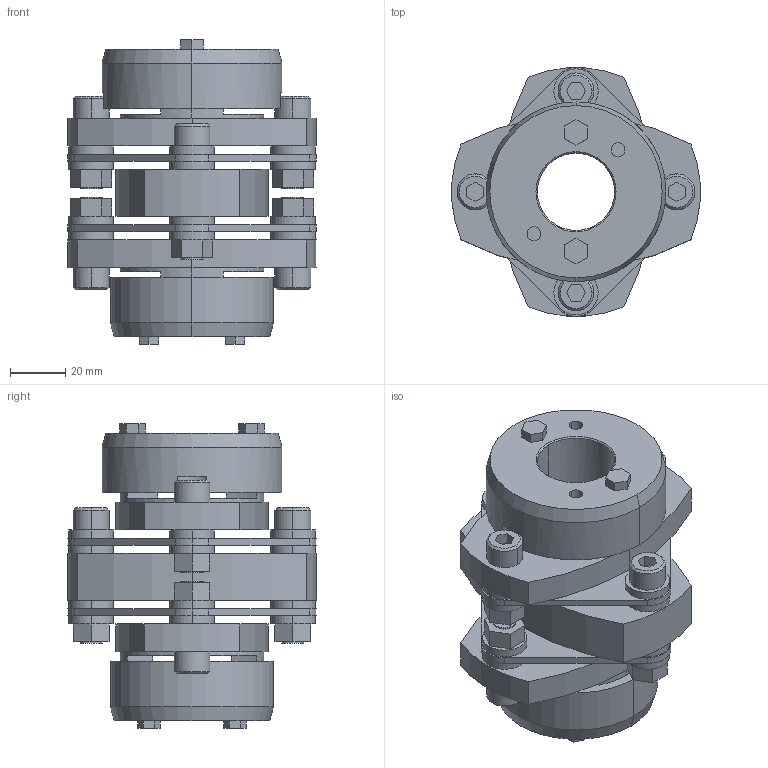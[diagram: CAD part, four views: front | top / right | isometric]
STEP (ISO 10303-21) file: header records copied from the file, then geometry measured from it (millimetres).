
FILE_DESCRIPTION((''),'2;1');
FILE_NAME('LCD-90T7-28×32.stp','2015-11-01T19:33:34',(''),(''),'AutoCAD STEP 2000i','AutoCAD 2000i',', , ');
FILE_SCHEMA(('CONFIG_CONTROL_DESIGN'));
Length unit declared in the file: millimetre
Products named in the file (11): LCD-90T7-30×32; 忣兜1; LC90T7-T032; LC90T7-T035; LC90T7-T030-1; LC90T7-T030; LC90T7-T025-1; LC90T7-T025; LC90T7-T019-1; LC90T7-T019; LCD90-ITA
Assembly tree (10 placements, depth 2):
  LCD-90T7-30×32
    忣兜1
    LC90T7-T032
    LC90T7-T035
    LC90T7-T030-1
    LC90T7-T030
    LC90T7-T025-1
    LC90T7-T025
    LC90T7-T019-1
    LC90T7-T019
    LCD90-ITA
Bounding box: 90 x 89.94 x 110.3 mm (x, y, z)
Volume: 265562.2 mm3; surface area: 73972.8 mm2
Topology: 1 solids, 1 shells, 324 faces, 792 edges, 520 vertices
Faces by surface type: plane 178, cylinder 122, cone 24
Entity records: 9859 total; most frequent: DIRECTION 1750, CARTESIAN_POINT 1647, ORIENTED_EDGE 1584, EDGE_CURVE 792, AXIS2_PLACEMENT_3D 623, VERTEX_POINT 520, VECTOR 504, LINE 504
